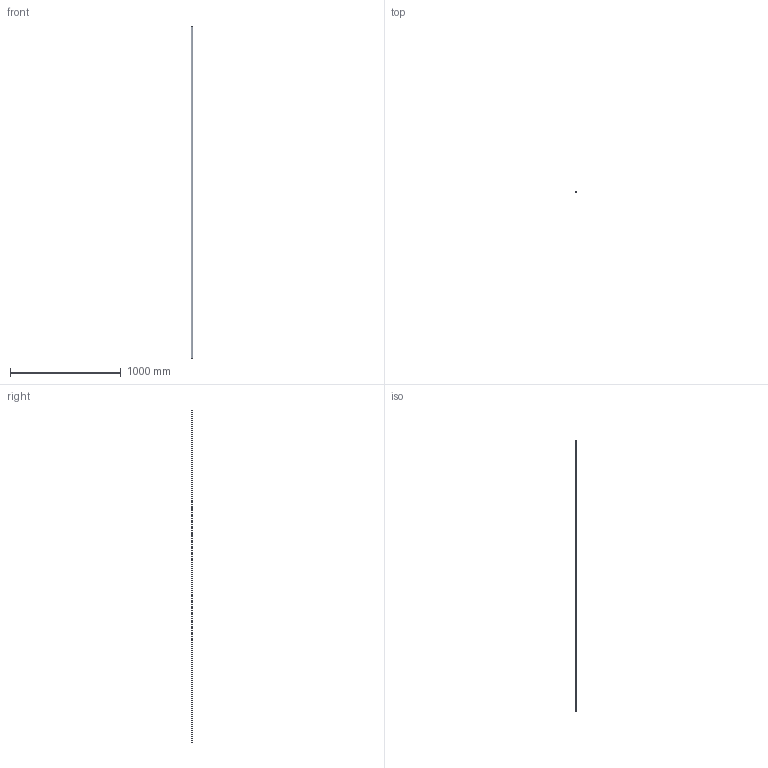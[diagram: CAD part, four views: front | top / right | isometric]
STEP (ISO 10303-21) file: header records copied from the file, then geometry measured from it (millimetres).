
FILE_DESCRIPTION (( 'STEP AP214' ), '1' );
FILE_NAME ('2000819 Porto Mini 1 Abdeckprofil.STEP', '2022-11-18T12:31:28', ( '' ), ( '' ), 'SwSTEP 2.0', 'SolidWorks 2021', '' );
FILE_SCHEMA (( 'AUTOMOTIVE_DESIGN' ));
Length unit declared in the file: millimetre
Products named in the file (1): 2000819 Porto Mini 1 Abdeckprofil
Bounding box: 12 x 3.61 x 3000 mm (x, y, z)
Volume: 44372.4 mm3; surface area: 108298.3 mm2
Topology: 1 solids, 1 shells, 43 faces, 123 edges, 82 vertices
Faces by surface type: plane 22, cylinder 21
Entity records: 1453 total; most frequent: DIRECTION 253, CARTESIAN_POINT 249, ORIENTED_EDGE 246, EDGE_CURVE 123, AXIS2_PLACEMENT_3D 86, VERTEX_POINT 82, VECTOR 81, LINE 81
